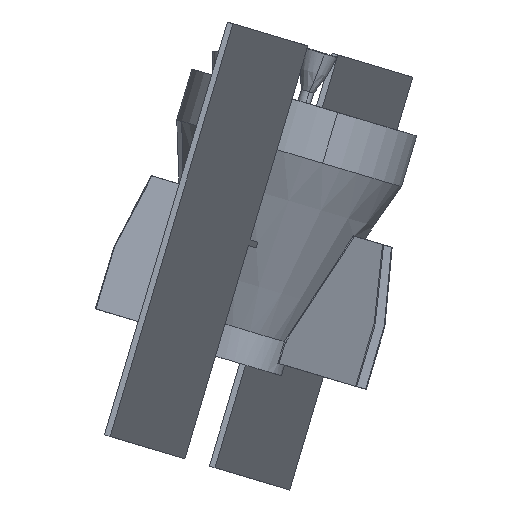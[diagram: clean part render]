
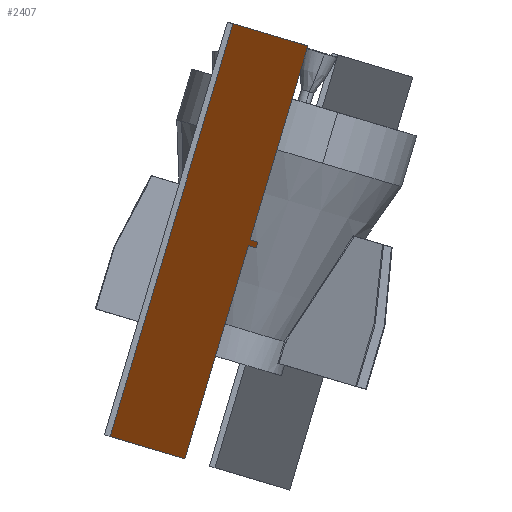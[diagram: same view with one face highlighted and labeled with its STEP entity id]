
A CAD part, front view. The second image highlights one B-rep face of the part: STEP entity #2407.
In plain terms, the highlighted planar face has unit normal (0.955, -0.091, -0.284).
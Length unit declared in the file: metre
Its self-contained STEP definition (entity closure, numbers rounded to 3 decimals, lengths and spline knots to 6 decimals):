
#652=CARTESIAN_POINT('',(0.225028,-0.715449,
-1.596103));
#653=CARTESIAN_POINT('',(0.222892,-0.712652,
-1.604171));
#654=CARTESIAN_POINT('',(0.218622,-0.707061,
-1.620299));
#655=CARTESIAN_POINT('',(0.214357,-0.701476,
-1.63641));
#656=CARTESIAN_POINT('',(0.212225,-0.698685,
-1.64446));
#1142=DIRECTION('',(0.285,0.,0.958));
#1143=VECTOR('',#1142,1.690349);
#1144=CARTESIAN_POINT('',(0.161318,-1.446324,
-1.57712));
#1145=LINE('',#1144,#1143);
#1149=DIRECTION('',(0.087,0.996,-0.026));
#1150=VECTOR('',#1149,0.733892);
#1151=CARTESIAN_POINT('',(0.161318,-1.446324,
-1.57712));
#1152=LINE('',#1151,#1150);
#1156=DIRECTION('',(0.285,0.,0.958));
#1157=VECTOR('',#1156,1.859876);
#1158=CARTESIAN_POINT('',(-0.383546,-1.446372,
-3.407625));
#1159=LINE('',#1158,#1157);
#1163=DIRECTION('',(0.087,0.996,-0.026));
#1164=VECTOR('',#1163,7.2);
#1165=CARTESIAN_POINT('',(-1.008653,-8.616772,
-3.221605));
#1166=LINE('',#1165,#1164);
#1170=DIRECTION('',(-0.285,0.,-0.958));
#1171=VECTOR('',#1170,3.600225);
#1172=CARTESIAN_POINT('',(0.018436,-8.616794,
0.229005));
#1173=LINE('',#1172,#1171);
#1177=DIRECTION('',(-0.087,-0.996,0.026));
#1178=VECTOR('',#1177,7.200112);
#1179=CARTESIAN_POINT('',(0.643553,-1.446282,
0.042981));
#1180=LINE('',#1179,#1178);
#1233=DIRECTION('',(0.087,0.996,-0.026));
#1234=VECTOR('',#1233,0.750726);
#1235=CARTESIAN_POINT('',(0.147053,-1.446325,
-1.625042));
#1236=LINE('',#1235,#1234);
#1469=CARTESIAN_POINT('',(0.643553,-1.446282,
0.042981));
#1470=CARTESIAN_POINT('',(0.018436,-8.616794,
0.229005));
#1471=VERTEX_POINT('',#1469);
#1472=VERTEX_POINT('',#1470);
#1473=CARTESIAN_POINT('',(-1.008653,-8.616772,
-3.221605));
#1474=VERTEX_POINT('',#1473);
#1475=CARTESIAN_POINT('',(-0.383546,-1.446372,
-3.407625));
#1476=VERTEX_POINT('',#1475);
#1485=CARTESIAN_POINT('',(0.225028,-0.715449,
-1.596103));
#1487=VERTEX_POINT('',#1485);
#1488=VERTEX_POINT('',#656);
#1500=CARTESIAN_POINT('',(0.161318,-1.446324,
-1.57712));
#1502=VERTEX_POINT('',#1500);
#1504=CARTESIAN_POINT('',(0.147053,-1.446325,
-1.625042));
#1506=VERTEX_POINT('',#1504);
#2388=CARTESIAN_POINT('',(0.877719,-0.002156,
0.369255));
#2389=DIRECTION('',(0.955,-0.091,-0.284));
#2390=DIRECTION('',(-0.087,-0.996,0.026));
#2391=AXIS2_PLACEMENT_3D('',#2388,#2389,#2390);
#2392=PLANE('',#2391);
#2393=ORIENTED_EDGE('',*,*,#2365,.F.);
#2394=ORIENTED_EDGE('',*,*,#2306,.T.);
#2395=ORIENTED_EDGE('',*,*,#1953,.T.);
#2397=ORIENTED_EDGE('',*,*,#2396,.F.);
#2398=ORIENTED_EDGE('',*,*,#2383,.F.);
#2400=ORIENTED_EDGE('',*,*,#2399,.F.);
#2402=ORIENTED_EDGE('',*,*,#2401,.F.);
#2404=ORIENTED_EDGE('',*,*,#2403,.F.);
#2405=EDGE_LOOP('',(#2393,#2394,#2395,#2397,#2398,#2400,#2402,#2404));
#2406=FACE_OUTER_BOUND('',#2405,.F.);
#2407=ADVANCED_FACE('',(#2406),#2392,.T.);
#657=B_SPLINE_CURVE_WITH_KNOTS('',3,(#652,#653,#654,#655,#656),.UNSPECIFIED.,
.F.,.F.,(4,1,4),(0.,0.5,1.),.UNSPECIFIED.);
#1953=EDGE_CURVE('',#1487,#1488,#657,.T.);
#2306=EDGE_CURVE('',#1502,#1487,#1152,.T.);
#2365=EDGE_CURVE('',#1502,#1471,#1145,.T.);
#2383=EDGE_CURVE('',#1476,#1506,#1159,.T.);
#2396=EDGE_CURVE('',#1506,#1488,#1236,.T.);
#2399=EDGE_CURVE('',#1474,#1476,#1166,.T.);
#2401=EDGE_CURVE('',#1472,#1474,#1173,.T.);
#2403=EDGE_CURVE('',#1471,#1472,#1180,.T.);
